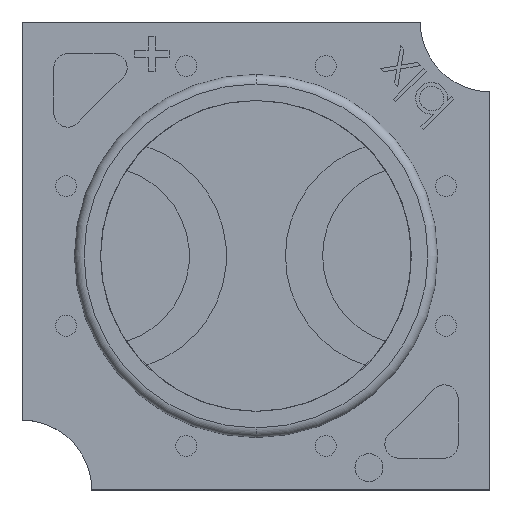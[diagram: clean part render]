
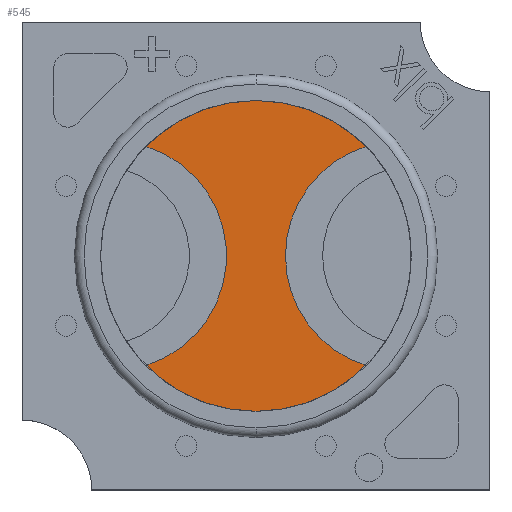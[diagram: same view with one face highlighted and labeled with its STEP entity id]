
A CAD part, top view. The second image highlights one B-rep face of the part: STEP entity #545.
In plain terms, the highlighted planar face has unit normal (0, 0, 1).
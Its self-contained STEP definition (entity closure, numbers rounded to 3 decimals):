
#256 = DIRECTION ( 'NONE',  ( 0., 0., 1. ) ) ;
#381 = CARTESIAN_POINT ( 'NONE',  ( -0.522, 0.065, 14.467 ) ) ;
#545 = ADVANCED_FACE ( 'NONE', ( #2551 ), #6482, .T. ) ;
#691 = CARTESIAN_POINT ( 'NONE',  ( -3.678, -3.072, 14.467 ) ) ;
#695 = EDGE_CURVE ( 'NONE', #6021, #1436, #4315, .T. ) ;
#881 = AXIS2_PLACEMENT_3D ( 'NONE', #4142, #256, #4833 ) ;
#1015 = DIRECTION ( 'NONE',  ( 1., 0., 0. ) ) ;
#1100 = ORIENTED_EDGE ( 'NONE', *, *, #695, .F. ) ;
#1208 = CARTESIAN_POINT ( 'NONE',  ( -0.522, 0.065, 14.467 ) ) ;
#1436 = VERTEX_POINT ( 'NONE', #7261 ) ;
#1528 = AXIS2_PLACEMENT_3D ( 'NONE', #2956, #7678, #3626 ) ;
#1531 = ORIENTED_EDGE ( 'NONE', *, *, #7338, .F. ) ;
#1837 = DIRECTION ( 'NONE',  ( 1., 0., 0. ) ) ;
#2023 = VERTEX_POINT ( 'NONE', #3165 ) ;
#2551 = FACE_OUTER_BOUND ( 'NONE', #7944, .T. ) ;
#2591 = ORIENTED_EDGE ( 'NONE', *, *, #4832, .T. ) ;
#2956 = CARTESIAN_POINT ( 'NONE',  ( -0.522, 0.065, 14.467 ) ) ;
#3047 = CARTESIAN_POINT ( 'NONE',  ( -4.653, 0.065, 14.467 ) ) ;
#3165 = CARTESIAN_POINT ( 'NONE',  ( 2.633, -3.072, 14.467 ) ) ;
#3346 = CARTESIAN_POINT ( 'NONE',  ( 3.608, 0.065, 14.467 ) ) ;
#3441 = ORIENTED_EDGE ( 'NONE', *, *, #4103, .T. ) ;
#3626 = DIRECTION ( 'NONE',  ( 1., 0., 0. ) ) ;
#3710 = DIRECTION ( 'NONE',  ( 1., 0., 0. ) ) ;
#3835 = CIRCLE ( 'NONE', #1528, 4.45 ) ;
#3895 = VERTEX_POINT ( 'NONE', #7315 ) ;
#4023 = DIRECTION ( 'NONE',  ( 1., 0., 0. ) ) ;
#4103 = EDGE_CURVE ( 'NONE', #6960, #2023, #5363, .T. ) ;
#4142 = CARTESIAN_POINT ( 'NONE',  ( 3.608, 0.065, 14.467 ) ) ;
#4315 = CIRCLE ( 'NONE', #8153, 3.286 ) ;
#4832 = EDGE_CURVE ( 'NONE', #6021, #3895, #3835, .T. ) ;
#4833 = DIRECTION ( 'NONE',  ( 1., 0., 0. ) ) ;
#4971 = DIRECTION ( 'NONE',  ( 0., 0., 1. ) ) ;
#5067 = AXIS2_PLACEMENT_3D ( 'NONE', #3047, #7770, #3710 ) ;
#5363 = CIRCLE ( 'NONE', #8343, 4.45 ) ;
#5457 = CIRCLE ( 'NONE', #881, 3.286 ) ;
#5851 = DIRECTION ( 'NONE',  ( 0., 0., 1. ) ) ;
#6021 = VERTEX_POINT ( 'NONE', #6421 ) ;
#6421 = CARTESIAN_POINT ( 'NONE',  ( 2.633, 3.203, 14.467 ) ) ;
#6469 = CIRCLE ( 'NONE', #5067, 3.286 ) ;
#6482 = PLANE ( 'NONE',  #6970 ) ;
#6584 = EDGE_CURVE ( 'NONE', #1436, #2023, #5457, .T. ) ;
#6960 = VERTEX_POINT ( 'NONE', #691 ) ;
#6970 = AXIS2_PLACEMENT_3D ( 'NONE', #1208, #5851, #1837 ) ;
#7032 = ORIENTED_EDGE ( 'NONE', *, *, #6584, .F. ) ;
#7261 = CARTESIAN_POINT ( 'NONE',  ( 0.322, 0.065, 14.467 ) ) ;
#7315 = CARTESIAN_POINT ( 'NONE',  ( -3.678, 3.203, 14.467 ) ) ;
#7338 = EDGE_CURVE ( 'NONE', #6960, #3895, #6469, .T. ) ;
#7678 = DIRECTION ( 'NONE',  ( 0., 0., 1. ) ) ;
#7770 = DIRECTION ( 'NONE',  ( 0., 0., 1. ) ) ;
#7944 = EDGE_LOOP ( 'NONE', ( #1100, #2591, #1531, #3441, #7032 ) ) ;
#8072 = DIRECTION ( 'NONE',  ( 0., 0., 1. ) ) ;
#8153 = AXIS2_PLACEMENT_3D ( 'NONE', #3346, #8072, #4023 ) ;
#8343 = AXIS2_PLACEMENT_3D ( 'NONE', #381, #4971, #1015 ) ;
